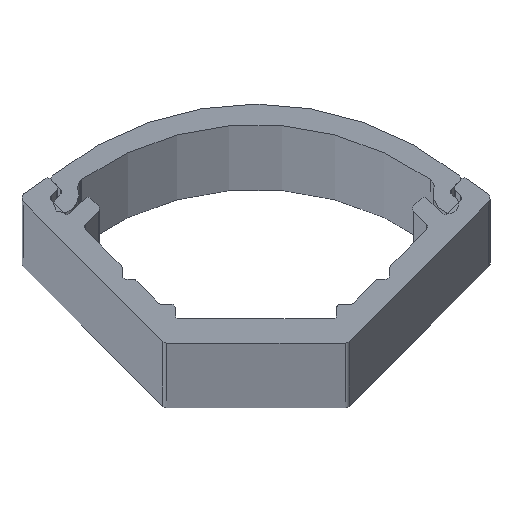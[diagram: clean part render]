
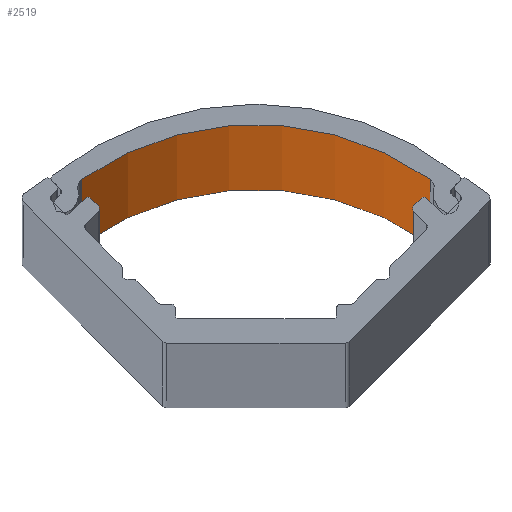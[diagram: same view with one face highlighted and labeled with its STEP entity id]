
A CAD part, top view. The second image highlights one B-rep face of the part: STEP entity #2519.
In plain terms, the highlighted cylindrical face has radius 16.4 mm (diameter 32.8 mm), a partial arc.
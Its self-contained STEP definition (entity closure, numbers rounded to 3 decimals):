
#4 = VERTEX_POINT ( 'NONE', #2050 ) ;
#52 = DIRECTION ( 'NONE',  ( 0., 0., -1. ) ) ;
#129 = ORIENTED_EDGE ( 'NONE', *, *, #1528, .T. ) ;
#243 = CARTESIAN_POINT ( 'NONE',  ( 1.7, -1.7, 0. ) ) ;
#271 = CARTESIAN_POINT ( 'NONE',  ( -14.446, 1.178, 2000. ) ) ;
#458 = FACE_OUTER_BOUND ( 'NONE', #3059, .T. ) ;
#514 = DIRECTION ( 'NONE',  ( 0., 0., -1. ) ) ;
#545 = DIRECTION ( 'NONE',  ( 1., 0., 0. ) ) ;
#547 = CARTESIAN_POINT ( 'NONE',  ( 1.7, -1.7, 2000. ) ) ;
#571 = VECTOR ( 'NONE', #605, 1000. ) ;
#605 = DIRECTION ( 'NONE',  ( 0., 0., -1. ) ) ;
#703 = DIRECTION ( 'NONE',  ( -1., 0., 0. ) ) ;
#714 = AXIS2_PLACEMENT_3D ( 'NONE', #1415, #1967, #703 ) ;
#732 = DIRECTION ( 'NONE',  ( 0., 0., -1. ) ) ;
#759 = VERTEX_POINT ( 'NONE', #2977 ) ;
#996 = EDGE_CURVE ( 'NONE', #2309, #759, #1162, .T. ) ;
#1034 = LINE ( 'NONE', #1316, #571 ) ;
#1091 = CIRCLE ( 'NONE', #1437, 16.4 ) ;
#1162 = CIRCLE ( 'NONE', #1414, 16.4 ) ;
#1191 = EDGE_CURVE ( 'NONE', #1900, #759, #1034, .T. ) ;
#1268 = DIRECTION ( 'NONE',  ( 1., 0., 0. ) ) ;
#1316 = CARTESIAN_POINT ( 'NONE',  ( -1.178, 14.446, 2000. ) ) ;
#1414 = AXIS2_PLACEMENT_3D ( 'NONE', #243, #514, #545 ) ;
#1415 = CARTESIAN_POINT ( 'NONE',  ( 1.7, -1.7, 2000. ) ) ;
#1437 = AXIS2_PLACEMENT_3D ( 'NONE', #547, #732, #1268 ) ;
#1528 = EDGE_CURVE ( 'NONE', #4, #2309, #2427, .T. ) ;
#1595 = CARTESIAN_POINT ( 'NONE',  ( -1.178, 14.446, 2000. ) ) ;
#1604 = CARTESIAN_POINT ( 'NONE',  ( -14.446, 1.178, 0. ) ) ;
#1624 = ORIENTED_EDGE ( 'NONE', *, *, #996, .T. ) ;
#1629 = ORIENTED_EDGE ( 'NONE', *, *, #1191, .F. ) ;
#1769 = ORIENTED_EDGE ( 'NONE', *, *, #2771, .F. ) ;
#1900 = VERTEX_POINT ( 'NONE', #1595 ) ;
#1901 = CYLINDRICAL_SURFACE ( 'NONE', #714, 16.4 ) ;
#1967 = DIRECTION ( 'NONE',  ( 0., 0., -1. ) ) ;
#2050 = CARTESIAN_POINT ( 'NONE',  ( -14.446, 1.178, 2000. ) ) ;
#2309 = VERTEX_POINT ( 'NONE', #1604 ) ;
#2427 = LINE ( 'NONE', #271, #2883 ) ;
#2519 = ADVANCED_FACE ( 'NONE', ( #458 ), #1901, .F. ) ;
#2771 = EDGE_CURVE ( 'NONE', #4, #1900, #1091, .T. ) ;
#2883 = VECTOR ( 'NONE', #52, 1000. ) ;
#2977 = CARTESIAN_POINT ( 'NONE',  ( -1.178, 14.446, 0. ) ) ;
#3059 = EDGE_LOOP ( 'NONE', ( #1624, #1629, #1769, #129 ) ) ;
